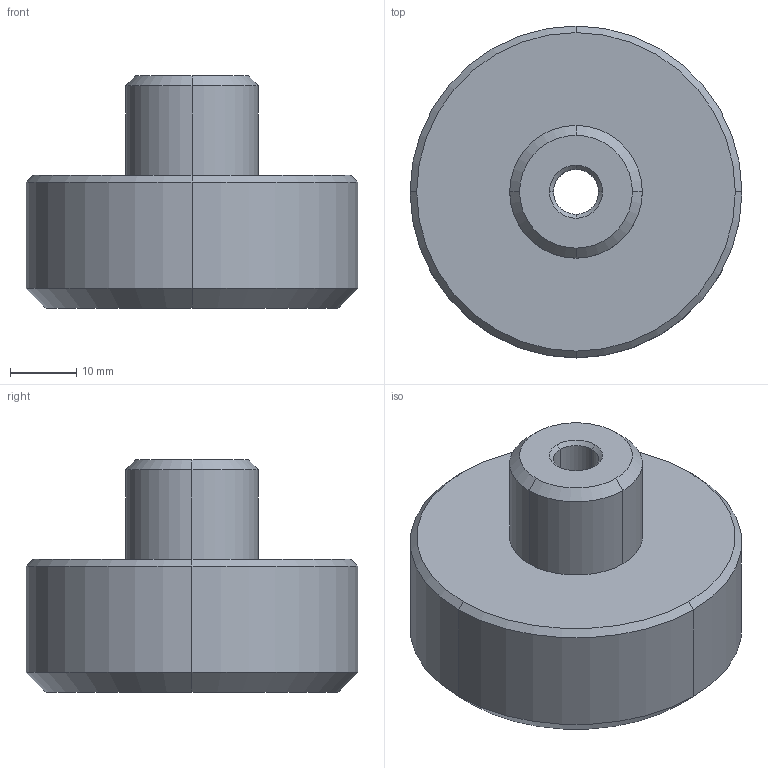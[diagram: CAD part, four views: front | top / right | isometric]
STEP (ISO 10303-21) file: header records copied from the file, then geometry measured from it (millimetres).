
FILE_DESCRIPTION((''),'2;1');
FILE_NAME('C:\WIXROYD\Positioning\3010\3010W620.stp','2003-01-09T12:48:11',('Administrator'),(''),'Autodesk Inventor (tm) 5.0','Autodesk Inventor (tm) 5.0','');
FILE_SCHEMA(('CONFIG_CONTROL_DESIGN'));
Length unit declared in the file: millimetre
Products named in the file (1): 3010W620
Bounding box: 50 x 50 x 35 mm (x, y, z)
Volume: 41484.6 mm3; surface area: 8329.6 mm2
Topology: 1 solids, 1 shells, 36 faces, 80 edges, 48 vertices
Faces by surface type: cylinder 16, cone 16, plane 4
Entity records: 1103 total; most frequent: DIRECTION 202, CARTESIAN_POINT 165, ORIENTED_EDGE 160, AXIS2_PLACEMENT_3D 85, EDGE_CURVE 80, VERTEX_POINT 48, CIRCLE 48, EDGE_LOOP 40
